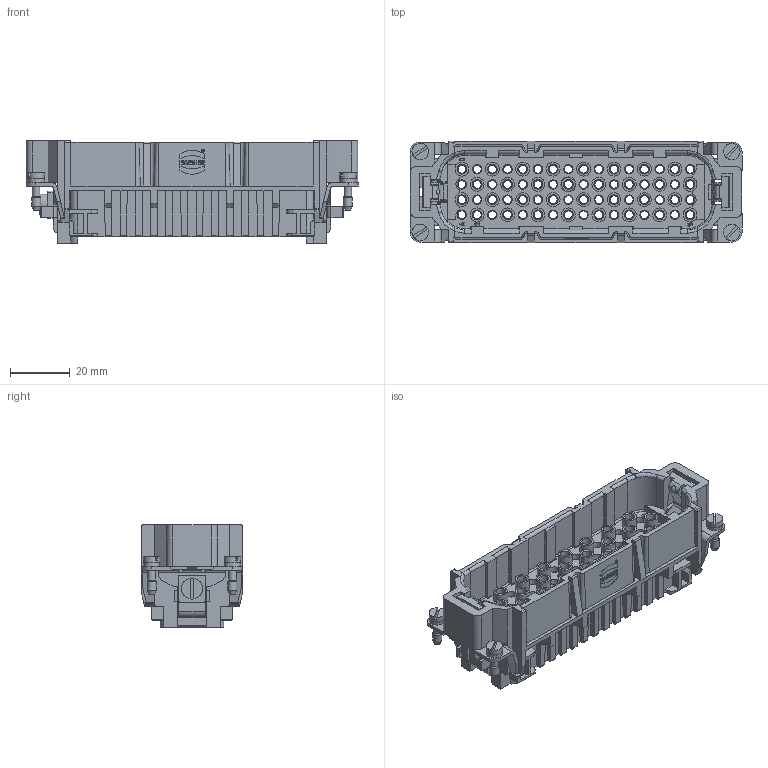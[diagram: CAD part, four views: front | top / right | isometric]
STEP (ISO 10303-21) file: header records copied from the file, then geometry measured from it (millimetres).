
FILE_DESCRIPTION(/* description */ (''),/* implementation_level */ '2;1');
FILE_NAME(/* name */ '100094986ugm000_c.stp',/* time_stamp */ '2022-03-11T09:57:06+01:00',/* author */ (''),/* organization */ (''),/* preprocessor_version */ 'ST-DEVELOPER v16.7',/* originating_system */ 'SIEMENS PLM Software NX 1911',/* authorisation */ '');
FILE_SCHEMA (('AUTOMOTIVE_DESIGN { 1 0 10303 214 3 1 1 1 }'));
Length unit declared in the file: millimetre
Products named in the file (1): 100094986ugm000_c
Bounding box: 110.9 x 33.9 x 34.2 mm (x, y, z)
Volume: 40652.8 mm3; surface area: 40171.4 mm2
Topology: 1 solids, 1 shells, 1750 faces, 4561 edges, 3018 vertices
Faces by surface type: plane 880, cylinder 440, cone 348, bspline 62, torus 14, sphere 4, extrusion 2
Full cylindrical faces by diameter (mm): 0.6 x2, 0.911 x1, 1.077 x1, 2.349 x2, 2.5 x4, 2.519 x2, 2.62 x64, 3 x4, 3.24 x64, 3.242 x1, 3.4 x64, 4.6 x32, 5.3 x4, 5.5 x4, 7 x1
Entity records: 55151 total; most frequent: CARTESIAN_POINT 11857, DIRECTION 8163, ORIENTED_EDGE 7450, EDGE_CURVE 3725, AXIS2_PLACEMENT_3D 2901, VERTEX_POINT 2690, EDGE_LOOP 2599, VECTOR 2361
